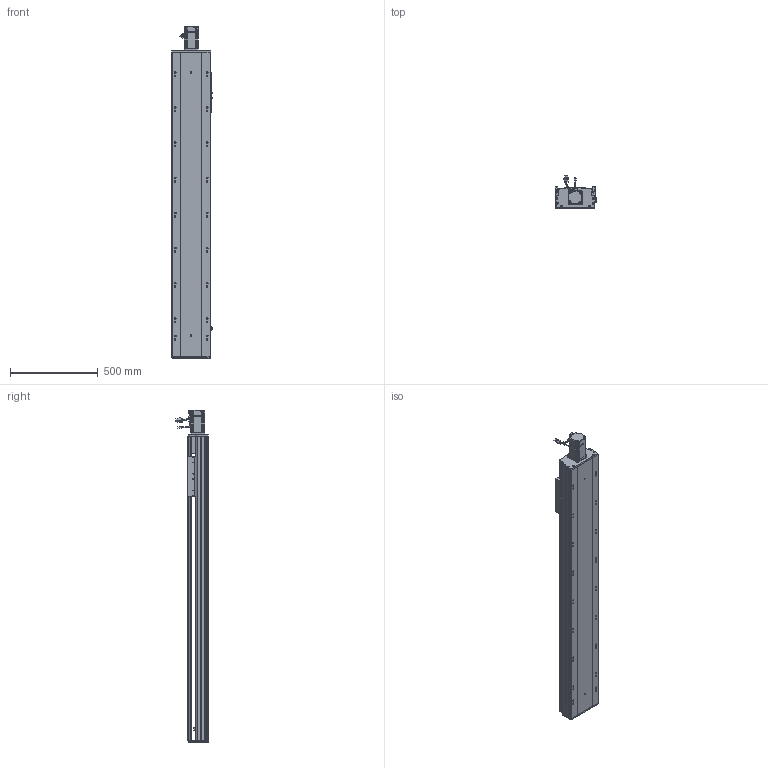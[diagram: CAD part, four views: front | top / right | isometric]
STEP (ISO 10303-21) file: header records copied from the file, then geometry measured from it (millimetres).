
FILE_DESCRIPTION (( 'STEP AP203' ), '1' );
FILE_NAME ('RY220-L2525-800-MK-邧嶺.SLDASM_1300.step', '2022-08-06T08:57:47', ( '' ), ( '' ), 'SwSTEP 2.0', 'SolidWorks 2016', '' );
FILE_SCHEMA (( 'CONFIG_CONTROL_DESIGN' ));
Length unit declared in the file: millimetre
Products named in the file (12): RY220菁釱MK-800-邧嶺_1300; RY220綴裔啣; RY220电机支撑座FK20（PCD90M6）; 滅袉蝶18-15; RY220半封闭25-32螺母铝滑块; RY220-L2525-800-MK-邧嶺.SLDASM_1300; 覜茼ん672; 怢湛750W_ECMA-CX0807ES; RY220-俋离672覜茼んえ; RY220-800-奻裔啣-MK_1300; 滅袉蝶18-12; RY220ヶ裔啣
Assembly tree (15 placements, depth 2):
  RY220-L2525-800-MK-邧嶺.SLDASM_1300
    RY220菁釱MK-800-邧嶺_1300
    RY220电机支撑座FK20（PCD90M6）
    怢湛750W_ECMA-CX0807ES
    滅袉蝶18-12  x2
    RY220ヶ裔啣
    RY220綴裔啣
    覜茼ん672  x3
    RY220半封闭25-32螺母铝滑块
    RY220-800-奻裔啣-MK_1300
    RY220-俋离672覜茼んえ
    滅袉蝶18-15  x2
Bounding box: 238.7 x 187.27 x 1890.3 mm (x, y, z)
Volume: 14488863.3 mm3; surface area: 4128954.7 mm2
Topology: 16 solids, 16 shells, 2302 faces, 6386 edges, 4020 vertices
Faces by surface type: cylinder 1052, plane 915, cone 273, bspline 36, sphere 16, torus 10
Entity records: 75768 total; most frequent: CARTESIAN_POINT 21463, ORIENTED_EDGE 11264, DIRECTION 10703, EDGE_CURVE 5632, AXIS2_PLACEMENT_3D 3783, VERTEX_POINT 3676, LINE 3137, VECTOR 3137
